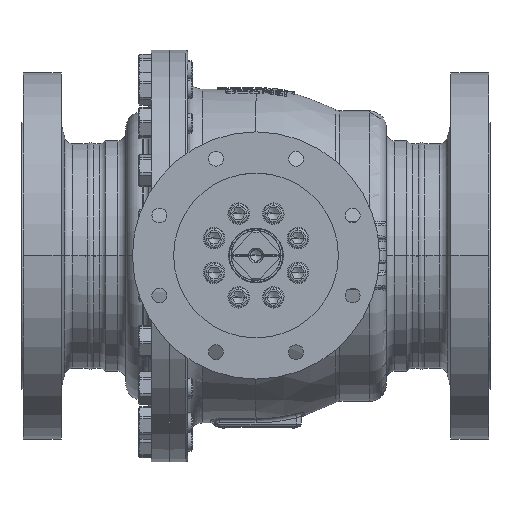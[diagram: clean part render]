
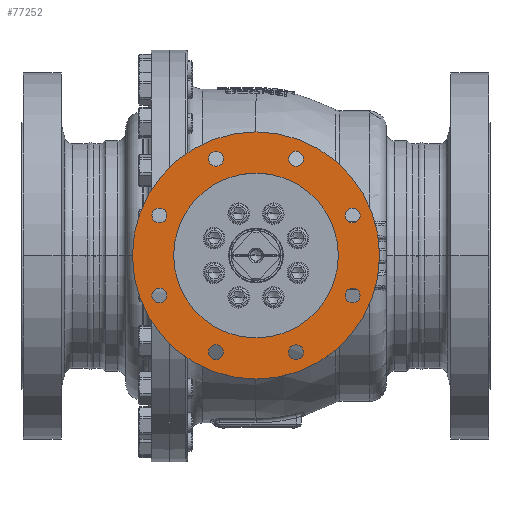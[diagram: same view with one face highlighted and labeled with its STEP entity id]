
A CAD part, top view. The second image highlights one B-rep face of the part: STEP entity #77252.
In plain terms, the highlighted planar face has unit normal (0, 0, 1).
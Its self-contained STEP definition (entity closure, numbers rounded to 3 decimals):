
#8562=CARTESIAN_POINT('',(0.,0.,349.));
#8563=DIRECTION('',(0.,0.,1.));
#8564=DIRECTION('',(1.,0.,0.));
#8565=AXIS2_PLACEMENT_3D('',#8562,#8563,#8564);
#8567=CARTESIAN_POINT('',(0.,0.,349.));
#8568=DIRECTION('',(0.,0.,-1.));
#8569=DIRECTION('',(1.,0.,0.));
#8570=AXIS2_PLACEMENT_3D('',#8567,#8568,#8569);
#8572=CARTESIAN_POINT('',(-117.333,48.601,349.));
#8573=DIRECTION('',(0.,0.,-1.));
#8574=DIRECTION('',(-1.,0.,0.));
#8575=AXIS2_PLACEMENT_3D('',#8572,#8573,#8574);
#8577=CARTESIAN_POINT('',(-117.333,48.601,349.));
#8578=DIRECTION('',(0.,0.,-1.));
#8579=DIRECTION('',(1.,0.,0.));
#8580=AXIS2_PLACEMENT_3D('',#8577,#8578,#8579);
#8582=CARTESIAN_POINT('',(-48.601,117.333,349.));
#8583=DIRECTION('',(0.,0.,-1.));
#8584=DIRECTION('',(-0.707,0.707,0.));
#8585=AXIS2_PLACEMENT_3D('',#8582,#8583,#8584);
#8587=CARTESIAN_POINT('',(-48.601,117.333,349.));
#8588=DIRECTION('',(0.,0.,-1.));
#8589=DIRECTION('',(0.707,-0.707,0.));
#8590=AXIS2_PLACEMENT_3D('',#8587,#8588,#8589);
#8592=CARTESIAN_POINT('',(48.601,117.333,349.));
#8593=DIRECTION('',(0.,0.,-1.));
#8594=DIRECTION('',(0.,1.,0.));
#8595=AXIS2_PLACEMENT_3D('',#8592,#8593,#8594);
#8597=CARTESIAN_POINT('',(48.601,117.333,349.));
#8598=DIRECTION('',(0.,0.,-1.));
#8599=DIRECTION('',(0.,-1.,0.));
#8600=AXIS2_PLACEMENT_3D('',#8597,#8598,#8599);
#8602=CARTESIAN_POINT('',(117.333,48.601,349.));
#8603=DIRECTION('',(0.,0.,-1.));
#8604=DIRECTION('',(0.707,0.707,0.));
#8605=AXIS2_PLACEMENT_3D('',#8602,#8603,#8604);
#8607=CARTESIAN_POINT('',(117.333,48.601,349.));
#8608=DIRECTION('',(0.,0.,-1.));
#8609=DIRECTION('',(-0.707,-0.707,0.));
#8610=AXIS2_PLACEMENT_3D('',#8607,#8608,#8609);
#8612=CARTESIAN_POINT('',(117.333,-48.601,349.));
#8613=DIRECTION('',(0.,0.,-1.));
#8614=DIRECTION('',(1.,0.,0.));
#8615=AXIS2_PLACEMENT_3D('',#8612,#8613,#8614);
#8617=CARTESIAN_POINT('',(117.333,-48.601,349.));
#8618=DIRECTION('',(0.,0.,-1.));
#8619=DIRECTION('',(-1.,0.,0.));
#8620=AXIS2_PLACEMENT_3D('',#8617,#8618,#8619);
#8622=CARTESIAN_POINT('',(48.601,-117.333,349.));
#8623=DIRECTION('',(0.,0.,-1.));
#8624=DIRECTION('',(0.707,-0.707,0.));
#8625=AXIS2_PLACEMENT_3D('',#8622,#8623,#8624);
#8627=CARTESIAN_POINT('',(48.601,-117.333,349.));
#8628=DIRECTION('',(0.,0.,-1.));
#8629=DIRECTION('',(-0.707,0.707,0.));
#8630=AXIS2_PLACEMENT_3D('',#8627,#8628,#8629);
#8632=CARTESIAN_POINT('',(-48.601,-117.333,349.));
#8633=DIRECTION('',(0.,0.,-1.));
#8634=DIRECTION('',(0.,-1.,0.));
#8635=AXIS2_PLACEMENT_3D('',#8632,#8633,#8634);
#8637=CARTESIAN_POINT('',(-48.601,-117.333,349.));
#8638=DIRECTION('',(0.,0.,-1.));
#8639=DIRECTION('',(0.,1.,0.));
#8640=AXIS2_PLACEMENT_3D('',#8637,#8638,#8639);
#8642=CARTESIAN_POINT('',(-117.333,-48.601,349.));
#8643=DIRECTION('',(0.,0.,-1.));
#8644=DIRECTION('',(-0.707,-0.707,0.));
#8645=AXIS2_PLACEMENT_3D('',#8642,#8643,#8644);
#8647=CARTESIAN_POINT('',(-117.333,-48.601,349.));
#8648=DIRECTION('',(0.,0.,-1.));
#8649=DIRECTION('',(0.707,0.707,0.));
#8650=AXIS2_PLACEMENT_3D('',#8647,#8648,#8649);
#8656=CARTESIAN_POINT('',(0.,0.,349.));
#8657=DIRECTION('',(0.,0.,-1.));
#8658=DIRECTION('',(1.,0.,0.));
#8659=AXIS2_PLACEMENT_3D('',#8656,#8657,#8658);
#8665=CARTESIAN_POINT('',(0.,0.,349.));
#8666=DIRECTION('',(0.,0.,1.));
#8667=DIRECTION('',(1.,0.,0.));
#8668=AXIS2_PLACEMENT_3D('',#8665,#8666,#8667);
#61785=CARTESIAN_POINT('',(100.,0.,349.));
#61787=VERTEX_POINT('',#61785);
#61789=CARTESIAN_POINT('',(-100.,0.,349.));
#61791=VERTEX_POINT('',#61789);
#61793=CARTESIAN_POINT('',(150.,0.,349.));
#61794=CARTESIAN_POINT('',(-150.,0.,349.));
#61795=VERTEX_POINT('',#61793);
#61796=VERTEX_POINT('',#61794);
#61929=CARTESIAN_POINT('',(-126.333,48.601,349.));
#61930=CARTESIAN_POINT('',(-108.333,48.601,349.));
#61931=VERTEX_POINT('',#61929);
#61932=VERTEX_POINT('',#61930);
#61933=CARTESIAN_POINT('',(-54.965,123.697,349.));
#61934=CARTESIAN_POINT('',(-42.237,110.969,349.));
#61935=VERTEX_POINT('',#61933);
#61936=VERTEX_POINT('',#61934);
#61937=CARTESIAN_POINT('',(48.601,126.333,349.));
#61938=CARTESIAN_POINT('',(48.601,108.333,349.));
#61939=VERTEX_POINT('',#61937);
#61940=VERTEX_POINT('',#61938);
#61941=CARTESIAN_POINT('',(123.697,54.965,349.));
#61942=CARTESIAN_POINT('',(110.969,42.237,349.));
#61943=VERTEX_POINT('',#61941);
#61944=VERTEX_POINT('',#61942);
#61945=CARTESIAN_POINT('',(126.333,-48.601,349.));
#61946=CARTESIAN_POINT('',(108.333,-48.601,349.));
#61947=VERTEX_POINT('',#61945);
#61948=VERTEX_POINT('',#61946);
#61949=CARTESIAN_POINT('',(54.965,-123.697,349.));
#61950=CARTESIAN_POINT('',(42.237,-110.969,349.));
#61951=VERTEX_POINT('',#61949);
#61952=VERTEX_POINT('',#61950);
#61953=CARTESIAN_POINT('',(-48.601,-126.333,349.));
#61954=CARTESIAN_POINT('',(-48.601,-108.333,349.));
#61955=VERTEX_POINT('',#61953);
#61956=VERTEX_POINT('',#61954);
#61957=CARTESIAN_POINT('',(-123.697,-54.965,349.));
#61958=CARTESIAN_POINT('',(-110.969,-42.237,349.));
#61959=VERTEX_POINT('',#61957);
#61960=VERTEX_POINT('',#61958);
#77189=CARTESIAN_POINT('',(0.,0.,349.));
#77190=DIRECTION('',(0.,0.,1.));
#77191=DIRECTION('',(1.,0.,0.));
#77192=AXIS2_PLACEMENT_3D('',#77189,#77190,#77191);
#77193=PLANE('',#77192);
#77194=ORIENTED_EDGE('',*,*,#77168,.F.);
#77195=ORIENTED_EDGE('',*,*,#77184,.T.);
#77196=EDGE_LOOP('',(#77194,#77195));
#77197=FACE_OUTER_BOUND('',#77196,.F.);
#77199=ORIENTED_EDGE('',*,*,#77198,.F.);
#77201=ORIENTED_EDGE('',*,*,#77200,.T.);
#77202=EDGE_LOOP('',(#77199,#77201));
#77203=FACE_BOUND('',#77202,.F.);
#77205=ORIENTED_EDGE('',*,*,#77204,.F.);
#77207=ORIENTED_EDGE('',*,*,#77206,.F.);
#77208=EDGE_LOOP('',(#77205,#77207));
#77209=FACE_BOUND('',#77208,.F.);
#77211=ORIENTED_EDGE('',*,*,#77210,.F.);
#77213=ORIENTED_EDGE('',*,*,#77212,.F.);
#77214=EDGE_LOOP('',(#77211,#77213));
#77215=FACE_BOUND('',#77214,.F.);
#77217=ORIENTED_EDGE('',*,*,#77216,.F.);
#77219=ORIENTED_EDGE('',*,*,#77218,.F.);
#77220=EDGE_LOOP('',(#77217,#77219));
#77221=FACE_BOUND('',#77220,.F.);
#77223=ORIENTED_EDGE('',*,*,#77222,.F.);
#77225=ORIENTED_EDGE('',*,*,#77224,.F.);
#77226=EDGE_LOOP('',(#77223,#77225));
#77227=FACE_BOUND('',#77226,.F.);
#77229=ORIENTED_EDGE('',*,*,#77228,.F.);
#77231=ORIENTED_EDGE('',*,*,#77230,.F.);
#77232=EDGE_LOOP('',(#77229,#77231));
#77233=FACE_BOUND('',#77232,.F.);
#77235=ORIENTED_EDGE('',*,*,#77234,.F.);
#77237=ORIENTED_EDGE('',*,*,#77236,.F.);
#77238=EDGE_LOOP('',(#77235,#77237));
#77239=FACE_BOUND('',#77238,.F.);
#77241=ORIENTED_EDGE('',*,*,#77240,.F.);
#77243=ORIENTED_EDGE('',*,*,#77242,.F.);
#77244=EDGE_LOOP('',(#77241,#77243));
#77245=FACE_BOUND('',#77244,.F.);
#77247=ORIENTED_EDGE('',*,*,#77246,.F.);
#77249=ORIENTED_EDGE('',*,*,#77248,.F.);
#77250=EDGE_LOOP('',(#77247,#77249));
#77251=FACE_BOUND('',#77250,.F.);
#77252=ADVANCED_FACE('',(#77197,#77203,#77209,#77215,#77221,#77227,#77233,
#77239,#77245,#77251),#77193,.T.);
#8566=CIRCLE('',#8565,150.);
#8571=CIRCLE('',#8570,150.);
#8576=CIRCLE('',#8575,9.);
#8581=CIRCLE('',#8580,9.);
#8586=CIRCLE('',#8585,9.);
#8591=CIRCLE('',#8590,9.);
#8596=CIRCLE('',#8595,9.);
#8601=CIRCLE('',#8600,9.);
#8606=CIRCLE('',#8605,9.);
#8611=CIRCLE('',#8610,9.);
#8616=CIRCLE('',#8615,9.);
#8621=CIRCLE('',#8620,9.);
#8626=CIRCLE('',#8625,9.);
#8631=CIRCLE('',#8630,9.);
#8636=CIRCLE('',#8635,9.);
#8641=CIRCLE('',#8640,9.);
#8646=CIRCLE('',#8645,9.);
#8651=CIRCLE('',#8650,9.);
#8660=CIRCLE('',#8659,100.);
#8669=CIRCLE('',#8668,100.);
#77168=EDGE_CURVE('',#61795,#61796,#8566,.T.);
#77184=EDGE_CURVE('',#61795,#61796,#8571,.T.);
#77198=EDGE_CURVE('',#61787,#61791,#8660,.T.);
#77200=EDGE_CURVE('',#61787,#61791,#8669,.T.);
#77204=EDGE_CURVE('',#61931,#61932,#8576,.T.);
#77206=EDGE_CURVE('',#61932,#61931,#8581,.T.);
#77210=EDGE_CURVE('',#61935,#61936,#8586,.T.);
#77212=EDGE_CURVE('',#61936,#61935,#8591,.T.);
#77216=EDGE_CURVE('',#61939,#61940,#8596,.T.);
#77218=EDGE_CURVE('',#61940,#61939,#8601,.T.);
#77222=EDGE_CURVE('',#61943,#61944,#8606,.T.);
#77224=EDGE_CURVE('',#61944,#61943,#8611,.T.);
#77228=EDGE_CURVE('',#61947,#61948,#8616,.T.);
#77230=EDGE_CURVE('',#61948,#61947,#8621,.T.);
#77234=EDGE_CURVE('',#61951,#61952,#8626,.T.);
#77236=EDGE_CURVE('',#61952,#61951,#8631,.T.);
#77240=EDGE_CURVE('',#61955,#61956,#8636,.T.);
#77242=EDGE_CURVE('',#61956,#61955,#8641,.T.);
#77246=EDGE_CURVE('',#61959,#61960,#8646,.T.);
#77248=EDGE_CURVE('',#61960,#61959,#8651,.T.);
